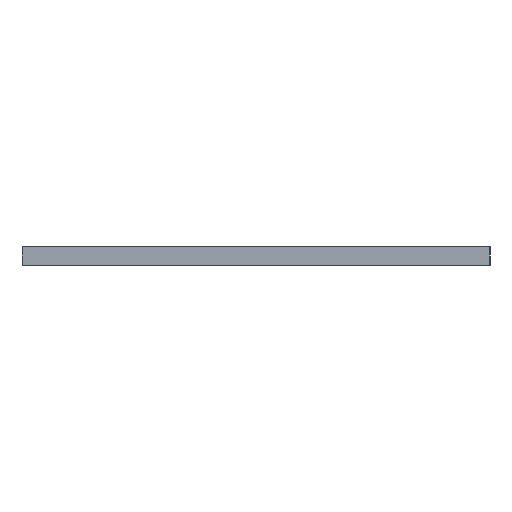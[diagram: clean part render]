
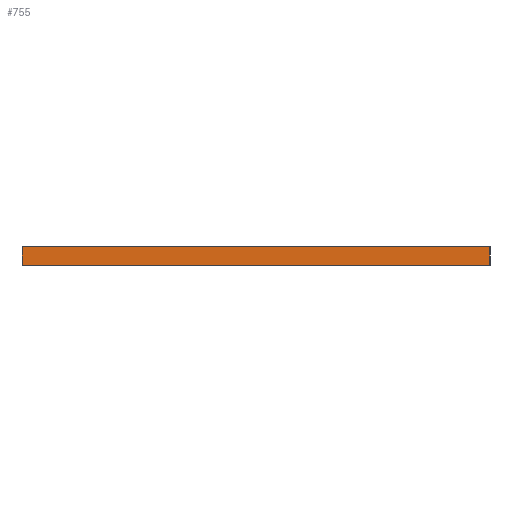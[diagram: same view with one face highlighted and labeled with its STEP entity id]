
A CAD part, left-side view. The second image highlights one B-rep face of the part: STEP entity #755.
In plain terms, the highlighted planar face has unit normal (-1, 0, 0).
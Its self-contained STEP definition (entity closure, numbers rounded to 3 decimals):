
#91 = LINE ( 'NONE', #771, #466 ) ;
#132 = DIRECTION ( 'NONE',  ( 0., 0., -1. ) ) ;
#146 = CARTESIAN_POINT ( 'NONE',  ( -90., 25., 2. ) ) ;
#148 = VERTEX_POINT ( 'NONE', #890 ) ;
#151 = DIRECTION ( 'NONE',  ( 0., 0., -1. ) ) ;
#153 = LINE ( 'NONE', #578, #822 ) ;
#222 = FACE_OUTER_BOUND ( 'NONE', #533, .T. ) ;
#227 = ORIENTED_EDGE ( 'NONE', *, *, #893, .F. ) ;
#229 = LINE ( 'NONE', #643, #508 ) ;
#288 = CARTESIAN_POINT ( 'NONE',  ( -90., -25., 2. ) ) ;
#304 = EDGE_CURVE ( 'NONE', #148, #360, #91, .T. ) ;
#310 = DIRECTION ( 'NONE',  ( 0., -1., 0. ) ) ;
#312 = EDGE_CURVE ( 'NONE', #825, #148, #711, .T. ) ;
#330 = VERTEX_POINT ( 'NONE', #763 ) ;
#348 = DIRECTION ( 'NONE',  ( 1., 0., 0. ) ) ;
#355 = CARTESIAN_POINT ( 'NONE',  ( -90., -25., 0. ) ) ;
#360 = VERTEX_POINT ( 'NONE', #355 ) ;
#440 = AXIS2_PLACEMENT_3D ( 'NONE', #288, #348, #132 ) ;
#460 = EDGE_CURVE ( 'NONE', #825, #330, #229, .T. ) ;
#466 = VECTOR ( 'NONE', #621, 1000. ) ;
#473 = ORIENTED_EDGE ( 'NONE', *, *, #312, .T. ) ;
#486 = PLANE ( 'NONE',  #440 ) ;
#507 = VECTOR ( 'NONE', #151, 1000. ) ;
#508 = VECTOR ( 'NONE', #310, 1000. ) ;
#533 = EDGE_LOOP ( 'NONE', ( #681, #227, #796, #473 ) ) ;
#574 = DIRECTION ( 'NONE',  ( 0., 0., -1. ) ) ;
#578 = CARTESIAN_POINT ( 'NONE',  ( -90., -25., 2. ) ) ;
#621 = DIRECTION ( 'NONE',  ( 0., -1., 0. ) ) ;
#643 = CARTESIAN_POINT ( 'NONE',  ( -90., -25., 2. ) ) ;
#681 = ORIENTED_EDGE ( 'NONE', *, *, #304, .T. ) ;
#711 = LINE ( 'NONE', #146, #507 ) ;
#755 = ADVANCED_FACE ( 'NONE', ( #222 ), #486, .F. ) ;
#763 = CARTESIAN_POINT ( 'NONE',  ( -90., -25., 2. ) ) ;
#771 = CARTESIAN_POINT ( 'NONE',  ( -90., -25., 0. ) ) ;
#777 = CARTESIAN_POINT ( 'NONE',  ( -90., 25., 2. ) ) ;
#796 = ORIENTED_EDGE ( 'NONE', *, *, #460, .F. ) ;
#822 = VECTOR ( 'NONE', #574, 1000. ) ;
#825 = VERTEX_POINT ( 'NONE', #777 ) ;
#890 = CARTESIAN_POINT ( 'NONE',  ( -90., 25., 0. ) ) ;
#893 = EDGE_CURVE ( 'NONE', #330, #360, #153, .T. ) ;
